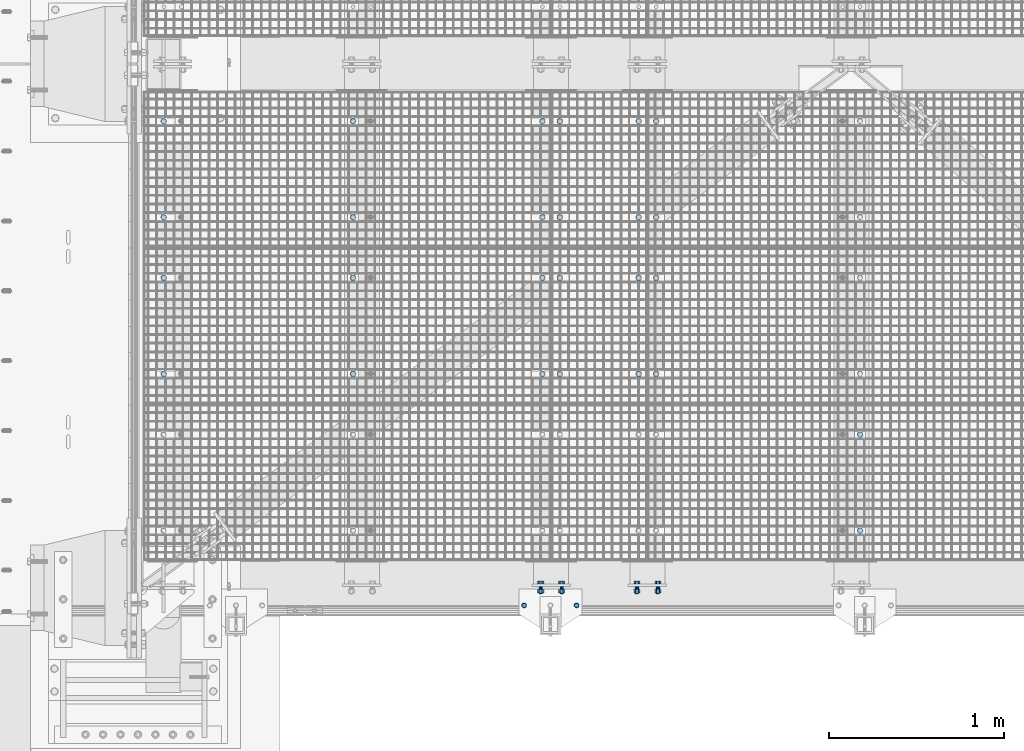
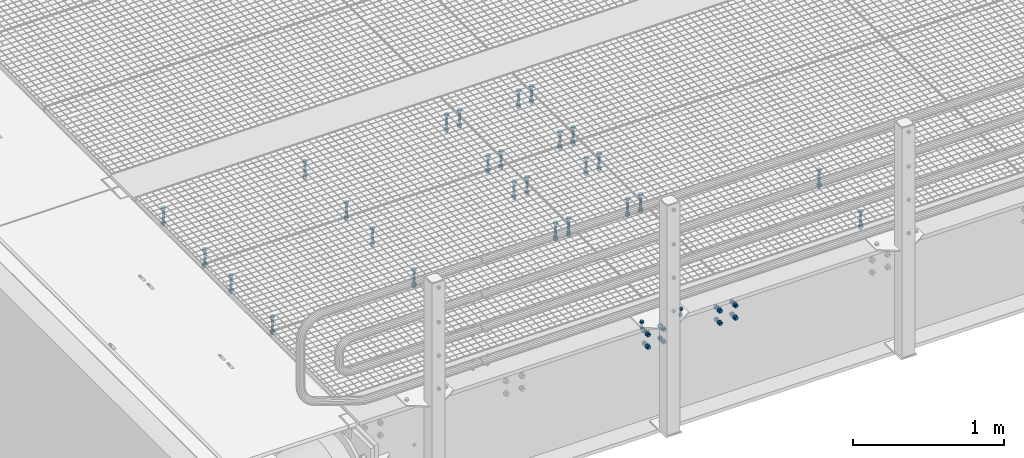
# One storey, part 8 of 1530: 16 mechanical fasteners.
"""IFC2X3 building model written with IfcOpenShell, lengths in millimetres."""

import ifcopenshell
import ifcopenshell.guid

model = None  # the IFC model being written
_history = None  # IfcOwnerHistory: only IFC2X3 demands one
_inside = {}  # id of a spatial element -> (the spatial element, [elements in it])
_under = {}  # id of a project, library or spatial element -> (it, [spatial elements below it])
_declared = {}  # id of a project -> (the project, [libraries it declares])
_typed = {}  # id of a type object -> (the type object, [elements of that type])
_made_of = {}  # id of a material, layer set ... -> (it, [elements and type objects made of it])


def new_model(schema):
    """Start an empty IFC model of exactly this schema.

    Asked for "IFC4X3", IfcOpenShell would pick the latest addendum, in which some entities
    have other attributes; the version numbers below select the first issue.
    IFC2X3 requires an IfcOwnerHistory on every rooted entity: one is made here for all.
    """
    global model, _history
    if schema == "IFC4X3":
        model = ifcopenshell.file(schema_version=(4, 3, 0, 0))
    else:
        model = ifcopenshell.file(schema=schema)
    _inside.clear()
    _under.clear()
    _declared.clear()
    _typed.clear()
    _made_of.clear()
    _history = None
    if model.schema == "IFC2X3":
        org = make("IfcOrganization", Name="unknown")
        user = make(
            "IfcPersonAndOrganization",
            ThePerson=make("IfcPerson", FamilyName="unknown"),
            TheOrganization=org,
        )
        app = make(
            "IfcApplication",
            ApplicationDeveloper=org,
            Version="unknown",
            ApplicationFullName="unknown",
            ApplicationIdentifier="unknown",
        )
        _history = make(
            "IfcOwnerHistory",
            OwningUser=user,
            OwningApplication=app,
            ChangeAction="ADDED",
            CreationDate=0,
        )
    return model


def make(cls, **values):
    """One entity of the class cls with the attributes given. An attribute that is None is left unset."""
    return model.create_entity(
        cls, **{name: value for name, value in values.items() if value is not None}
    )


def rooted(cls, **values):
    """An entity with a GlobalId (a new one), such as an element, a storey or a relation."""
    return make(cls, GlobalId=ifcopenshell.guid.new(), OwnerHistory=_history, **values)


def si_unit(unit_type, name, prefix=None):
    """IfcSIUnit, for example si_unit("LENGTHUNIT", "METRE", prefix="MILLI")."""
    return make("IfcSIUnit", UnitType=unit_type, Prefix=prefix, Name=name)


def assignment(units):
    """IfcUnitAssignment: the units of a project."""
    return None if units is None else make("IfcUnitAssignment", Units=units)


def point(xyz):
    """IfcCartesianPoint."""
    return None if xyz is None else make("IfcCartesianPoint", Coordinates=xyz)


def direction(xyz):
    """IfcDirection."""
    return None if xyz is None else make("IfcDirection", DirectionRatios=xyz)


def frame(location, z_axis=None, x_axis=None):
    """IfcAxis2Placement3D, a coordinate frame: its origin and axes. An axis left out is left unset."""
    return make(
        "IfcAxis2Placement3D",
        Location=point(location),
        Axis=direction(z_axis),
        RefDirection=direction(x_axis),
    )


def origin_with_axes():
    """The frame at (0, 0, 0) with the z axis (0, 0, 1) and the x axis (1, 0, 0) written out."""
    return frame((0.0, 0.0, 0.0), z_axis=(0.0, 0.0, 1.0), x_axis=(1.0, 0.0, 0.0))


def place(relative_to, where):
    """IfcLocalPlacement: puts the frame where relative to a parent placement (None: the world)."""
    return make(
        "IfcLocalPlacement", PlacementRelTo=relative_to, RelativePlacement=where
    )


def context(
    kind, dimensions, precision=None, world=None, true_north=None, identifier=None
):
    """IfcGeometricRepresentationContext, for example the 3D "Model" context."""
    return make(
        "IfcGeometricRepresentationContext",
        ContextIdentifier=identifier,
        ContextType=kind,
        CoordinateSpaceDimension=dimensions,
        Precision=precision,
        WorldCoordinateSystem=world,
        TrueNorth=true_north,
    )


def subcontext(parent, identifier, kind, view, scale=None):
    """IfcGeometricRepresentationSubContext, for example "Body" below "Model"."""
    return make(
        "IfcGeometricRepresentationSubContext",
        ContextIdentifier=identifier,
        ContextType=kind,
        ParentContext=parent,
        TargetScale=scale,
        TargetView=view,
    )


def project(units=None, contexts=None):
    """IfcProject with its units and contexts."""
    return rooted(
        "IfcProject",
        Name="project",
        RepresentationContexts=contexts,
        UnitsInContext=assignment(units),
    )


def spatial(cls, under=None, at=None, **own):
    """A site, building, storey or space (cls), placed at a placement, below another one or the project."""
    s = rooted(cls, ObjectPlacement=at, **own)
    if under is not None:
        _under.setdefault(under.id(), (under, []))[1].append(s)
    return s


def faces_of(points, faces, orient=None, outer=None):
    """IfcFace entities. A face is a list of loops; a loop is a list of indices into points, from 0.

    orient and outer hold one flag for each loop. By default every Orientation is true, the
    first loop of a face is its IfcFaceOuterBound and the others are IfcFaceBound.
    """
    made = []
    for i, loops in enumerate(faces):
        bounds = []
        for j, loop in enumerate(loops):
            is_outer = j == 0 if outer is None else outer[i][j]
            bounds.append(
                make(
                    "IfcFaceOuterBound" if is_outer else "IfcFaceBound",
                    Bound=make("IfcPolyLoop", Polygon=[points[k] for k in loop]),
                    Orientation=True if orient is None else orient[i][j],
                )
            )
        made.append(make("IfcFace", Bounds=bounds))
    return made


def faceted_brep(points, faces, orient=None, outer=None, voids=None):
    """IfcFacetedBrep: a solid bounded by flat faces; with voids (closed shells), ...WithVoids."""
    shared = [point(p) for p in points]
    hull = make("IfcClosedShell", CfsFaces=faces_of(shared, faces, orient, outer))
    if voids is None:
        return make("IfcFacetedBrep", Outer=hull)
    return make(
        "IfcFacetedBrepWithVoids",
        Outer=hull,
        Voids=[
            make(cls, CfsFaces=faces_of(shared, fs, o, b)) for cls, fs, o, b in voids
        ],
    )


def shape(context_of_items, identifier, shape_type, items):
    """IfcShapeRepresentation: the items that make up one representation, for example the "Body"."""
    return make(
        "IfcShapeRepresentation",
        ContextOfItems=context_of_items,
        RepresentationIdentifier=identifier,
        RepresentationType=shape_type,
        Items=items,
    )


def source(mapping_origin, context_of_items, identifier, shape_type, items):
    """IfcRepresentationMap: a shape defined once, which mapped items show again and again."""
    return make(
        "IfcRepresentationMap",
        MappingOrigin=mapping_origin,
        MappedRepresentation=shape(context_of_items, identifier, shape_type, items),
    )


def transform(
    local_origin,
    x_axis=None,
    y_axis=None,
    z_axis=None,
    scale=None,
    scale2=None,
    scale3=None,
    uniform=True,
):
    """IfcCartesianTransformationOperator3D, or its non-uniform kind. x_axis, y_axis, z_axis: its Axis1, 2, 3."""
    if uniform:
        return make(
            "IfcCartesianTransformationOperator3D",
            Axis1=direction(x_axis),
            Axis2=direction(y_axis),
            LocalOrigin=point(local_origin),
            Scale=scale,
            Axis3=direction(z_axis),
        )
    return make(
        "IfcCartesianTransformationOperator3DnonUniform",
        Axis1=direction(x_axis),
        Axis2=direction(y_axis),
        LocalOrigin=point(local_origin),
        Scale=scale,
        Axis3=direction(z_axis),
        Scale2=scale2,
        Scale3=scale3,
    )


def mapped(mapping_source, mapping_target):
    """IfcMappedItem: shows the shape of a source again, moved by a transform."""
    return make(
        "IfcMappedItem", MappingSource=mapping_source, MappingTarget=mapping_target
    )


def material(Name=None, Category=None):
    """IfcMaterial."""
    return make("IfcMaterial", Name=Name, Category=Category)


def made_of(thing, what):
    """Note that an element or type object is made of a material, layer set ...; save() writes the relation."""
    if what is not None:
        _made_of.setdefault(what.id(), (what, []))[1].append(thing)
    return thing


def type_object(cls, material=None, **own):
    """A type object (cls), such as IfcWallType, which elements share."""
    return made_of(rooted(cls, **own), material)


def element(
    cls,
    number,
    at=None,
    inside=None,
    cuts=None,
    type_object=None,
    material=None,
    context=None,
    identifier="Body",
    shape_type=None,
    held_by="IfcProductDefinitionShape",
    body=None,
    shapes=None,
    **own,
):
    """One element of the class cls, such as IfcWall. Its Tag is "e" and its number.

    at: its placement. inside: the storey or other place that contains it. cuts: it is an
    opening in that element (IfcRelVoidsElement). A single representation is given by context,
    identifier, shape_type and body (its items); several are given by shapes. held_by: the class
    of the entity that holds the representations. save() writes the other relations.
    """
    e = rooted(cls, Tag="e%d" % number, ObjectPlacement=at, **own)
    if body is not None:
        shapes = [shape(context, identifier, shape_type, body)]
    if shapes is not None:
        e.Representation = make(held_by, Representations=shapes)
    if inside is not None:
        _inside.setdefault(inside.id(), (inside, []))[1].append(e)
    if cuts is not None:
        rooted(
            "IfcRelVoidsElement", RelatingBuildingElement=cuts, RelatedOpeningElement=e
        )
    if type_object is not None:
        _typed.setdefault(type_object.id(), (type_object, []))[1].append(e)
    return made_of(e, material)


def aggregate(whole, parts):
    """IfcRelAggregates: a whole, such as a stair, and the parts it consists of."""
    return rooted("IfcRelAggregates", RelatingObject=whole, RelatedObjects=parts)


def save(model, path):
    """Write the relations noted so far, then the file.

    IfcRelAggregates (storeys below a building ...), IfcRelContainedInSpatialStructure (elements
    in a storey), IfcRelDefinesByType, IfcRelAssociatesMaterial and IfcRelDeclares: one each for
    every whole, place, type object, material and project.
    """
    for whole, parts in _under.values():
        aggregate(whole, parts)
    for where, things in _inside.values():
        rooted(
            "IfcRelContainedInSpatialStructure",
            RelatedElements=things,
            RelatingStructure=where,
        )
    for kind, things in _typed.values():
        rooted("IfcRelDefinesByType", RelatedObjects=things, RelatingType=kind)
    for what, things in _made_of.values():
        rooted("IfcRelAssociatesMaterial", RelatedObjects=things, RelatingMaterial=what)
    for by, libraries in _declared.values():
        rooted("IfcRelDeclares", RelatingContext=by, RelatedDefinitions=libraries)
    model.write(path)


model = new_model("IFC2X3")

# Units and contexts
model_context = context("Model", 3, precision=1e-05, world=origin_with_axes())
body_context = subcontext(model_context, "Body", "Model", "MODEL_VIEW")
ifc_project = project(units=[si_unit("LENGTHUNIT", "METRE", prefix="MILLI"), si_unit("AREAUNIT", "SQUARE_METRE"), si_unit("VOLUMEUNIT", "CUBIC_METRE"), si_unit("MASSUNIT", "GRAM", prefix="KILO"), si_unit("TIMEUNIT", "SECOND"), si_unit("PLANEANGLEUNIT", "RADIAN"), si_unit("SOLIDANGLEUNIT", "STERADIAN"), si_unit("THERMODYNAMICTEMPERATUREUNIT", "DEGREE_CELSIUS"), si_unit("LUMINOUSINTENSITYUNIT", "LUMEN")], contexts=[model_context])

# Site, building, storey
site_placement = place(None, origin_with_axes())
site = spatial("IfcSite", under=ifc_project, at=site_placement, Name="Brattvåg", CompositionType="ELEMENT")
building_placement = place(site_placement, origin_with_axes())
building = spatial("IfcBuilding", under=site, at=building_placement, Name="Undefined", CompositionType="ELEMENT")
storey_placement = place(building_placement, origin_with_axes())
storey = spatial("IfcBuildingStorey", under=building, at=storey_placement, Name="Undefined", CompositionType="ELEMENT", Elevation=0.0)

# Mechanical fasteners
ifc_material = material(Name="8")
mechanical_fastener_type = type_object("IfcMechanicalFastenerType", Name="Bolt assembly")
shared_shape_1 = source(origin_with_axes(), body_context, "Body", "Brep", [
    faceted_brep([(17.3205080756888, -10.5, 0.0), (8.66025403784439, -10.5, 15.0), (-8.66025403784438, -10.5, 15.0), (-17.3205080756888, -10.5, 2.12115047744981e-15), (-8.66025403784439, -10.5, -15.0), (8.66025403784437, -10.5, -15.0), (8.66025403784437, 2.0, -15.0), (-8.66025403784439, 2.0, -15.0), (-17.3205080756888, 2.0, 2.12115047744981e-15), (-8.66025403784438, 2.0, 15.0), (8.66025403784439, 2.0, 15.0), (17.3205080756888, 2.0, 0.0), (10.0, 2.0, 0.0), (8.66025403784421, 2.0, 5.0000000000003), (4.9999999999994, 2.0, 8.66025403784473), (-1.03633598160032e-12, 2.0, 10.0), (-5.00000000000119, 2.0, 8.6602540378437), (-8.66025403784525, 2.0, 4.99999999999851), (-10.0, 2.0, -2.07267196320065e-12), (-8.66025403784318, 2.0, -5.00000000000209), (-4.99999999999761, 2.0, -8.66025403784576), (3.09790571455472e-12, 2.0, -10.0), (5.00000000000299, 2.0, -8.66025403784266), (8.66025403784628, 2.0, -4.99999999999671), (8.66025403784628, 142.0, -4.99999999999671), (5.00000000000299, 142.0, -8.66025403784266), (3.09790571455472e-12, 142.0, -10.0), (-4.99999999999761, 142.0, -8.66025403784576), (-8.66025403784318, 142.0, -5.00000000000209), (-10.0, 142.0, -2.07267196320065e-12), (-8.66025403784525, 142.0, 4.99999999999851), (-5.00000000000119, 142.0, 8.6602540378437), (-1.03633598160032e-12, 142.0, 10.0), (4.9999999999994, 142.0, 8.66025403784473), (8.66025403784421, 142.0, 5.0000000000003), (10.0, 142.0, 0.0), (18.5, 2.0, 0.0), (16.0214699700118, 2.0, 9.25000000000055), (9.2499999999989, 2.0, 16.0214699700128), (-1.9172215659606e-12, 2.0, 18.5), (-9.25000000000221, 2.0, 16.0214699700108), (-16.0214699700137, 2.0, 9.24999999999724), (-18.5, 2.0, -3.83444313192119e-12), (-16.0214699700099, 2.0, -9.25000000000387), (-9.24999999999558, 2.0, -16.0214699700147), (5.73112557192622e-12, 2.0, -18.5), (9.25000000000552, 2.0, -16.0214699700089), (16.0214699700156, 2.0, -9.24999999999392), (16.0214699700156, 5.0, -9.24999999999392), (9.25000000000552, 5.0, -16.0214699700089), (5.73112557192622e-12, 5.0, -18.5), (-9.24999999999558, 5.0, -16.0214699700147), (-16.0214699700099, 5.0, -9.25000000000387), (-18.5, 5.0, -3.83444313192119e-12), (-16.0214699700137, 5.0, 9.24999999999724), (-9.25000000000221, 5.0, 16.0214699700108), (-1.9172215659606e-12, 5.0, 18.5), (9.2499999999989, 5.0, 16.0214699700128), (16.0214699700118, 5.0, 9.25000000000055), (18.5, 5.0, 0.0), (18.5, 109.998931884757, 0.0), (16.0214699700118, 109.998931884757, 9.25000000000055), (9.2499999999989, 109.998931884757, 16.0214699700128), (-1.9172215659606e-12, 109.998931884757, 18.5), (-9.25000000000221, 109.998931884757, 16.0214699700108), (-16.0214699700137, 109.998931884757, 9.24999999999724), (-18.5, 109.998931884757, -3.83444313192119e-12), (-16.0214699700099, 109.998931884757, -9.25000000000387), (-9.24999999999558, 109.998931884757, -16.0214699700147), (5.73112557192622e-12, 109.998931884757, -18.5), (9.25000000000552, 109.998931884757, -16.0214699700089), (16.0214699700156, 109.998931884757, -9.24999999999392), (16.0214699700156, 112.998931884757, -9.24999999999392), (9.25000000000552, 112.998931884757, -16.0214699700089), (5.73112557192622e-12, 112.998931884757, -18.5), (-9.24999999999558, 112.998931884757, -16.0214699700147), (-16.0214699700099, 112.998931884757, -9.25000000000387), (-18.5, 112.998931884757, -3.83444313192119e-12), (-16.0214699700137, 112.998931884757, 9.24999999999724), (-9.25000000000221, 112.998931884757, 16.0214699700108), (-1.9172215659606e-12, 112.998931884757, 18.5), (9.2499999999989, 112.998931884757, 16.0214699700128), (16.0214699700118, 112.998931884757, 9.25000000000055), (18.5, 112.998931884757, 0.0), (17.3205080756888, 112.998931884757, 0.0), (8.66025403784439, 112.998931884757, 15.0), (-8.66025403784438, 112.998931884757, 15.0), (-17.3205080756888, 112.998931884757, 2.12115047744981e-15), (-8.66025403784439, 112.998931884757, -15.0), (8.66025403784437, 112.998931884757, -15.0), (8.66025403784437, 130.998931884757, -15.0), (-8.66025403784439, 130.998931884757, -15.0), (-17.3205080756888, 130.998931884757, 2.12115047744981e-15), (-8.66025403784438, 130.998931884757, 15.0), (8.66025403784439, 130.998931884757, 15.0), (17.3205080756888, 130.998931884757, 0.0)], [[[0, 1, 2, 3, 4, 5]], [[6, 7, 8, 9, 10, 11]], [[0, 11, 10, 1]], [[1, 10, 9, 2]], [[2, 9, 8, 3]], [[3, 8, 7, 4]], [[4, 7, 6, 5]], [[5, 6, 11, 0]], [[12, 13, 14, 15, 16, 17, 18, 19, 20, 21, 22, 23]], [[24, 25, 26, 27, 28, 29, 30, 31, 32, 33, 34, 35]], [[12, 35, 34, 13]], [[13, 34, 33, 14]], [[14, 33, 32, 15]], [[15, 32, 31, 16]], [[16, 31, 30, 17]], [[17, 30, 29, 18]], [[18, 29, 28, 19]], [[19, 28, 27, 20]], [[20, 27, 26, 21]], [[21, 26, 25, 22]], [[22, 25, 24, 23]], [[23, 24, 35, 12]], [[36, 37, 38, 39, 40, 41, 42, 43, 44, 45, 46, 47]], [[48, 49, 50, 51, 52, 53, 54, 55, 56, 57, 58, 59]], [[36, 59, 58, 37]], [[37, 58, 57, 38]], [[38, 57, 56, 39]], [[39, 56, 55, 40]], [[40, 55, 54, 41]], [[41, 54, 53, 42]], [[42, 53, 52, 43]], [[43, 52, 51, 44]], [[44, 51, 50, 45]], [[45, 50, 49, 46]], [[46, 49, 48, 47]], [[47, 48, 59, 36]], [[60, 61, 62, 63, 64, 65, 66, 67, 68, 69, 70, 71]], [[72, 73, 74, 75, 76, 77, 78, 79, 80, 81, 82, 83]], [[60, 83, 82, 61]], [[61, 82, 81, 62]], [[62, 81, 80, 63]], [[63, 80, 79, 64]], [[64, 79, 78, 65]], [[65, 78, 77, 66]], [[66, 77, 76, 67]], [[67, 76, 75, 68]], [[68, 75, 74, 69]], [[69, 74, 73, 70]], [[70, 73, 72, 71]], [[71, 72, 83, 60]], [[84, 85, 86, 87, 88, 89]], [[90, 91, 92, 93, 94, 95]], [[84, 95, 94, 85]], [[85, 94, 93, 86]], [[86, 93, 92, 87]], [[87, 92, 91, 88]], [[88, 91, 90, 89]], [[89, 90, 95, 84]]]),
])
for number, where, z_axis, x_axis, name in (
    (1, (2956.00477935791, 2121.91931152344, -25.0), (-1.0, 1.99999855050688e-09, 0.0), (0.0, 1.0, 0.0), "Bolt assembly"),
    (2, (2956.00477935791, 1224.91931152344, -25.0), (-1.0, 1.99999855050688e-09, 0.0), (0.0, 1.0, 0.0), "Bolt assembly"),
    (3, (4124.01192543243, 327.99, -25.0), (-1.0, 1.99999855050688e-09, 0.0), (0.0, 1.0, 0.0), "Bolt assembly"),
    (4, (2856.01522064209, 2121.91931152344, -25.0), (-1.0, 1.99999855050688e-09, 0.0), (0.0, 1.0, 0.0), "Bolt assembly"),
    (5, (2405.00477935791, 2121.91931152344, -25.0), (-1.0, 1.99999855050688e-09, 0.0), (0.0, 1.0, 0.0), "Bolt assembly"),
    (6, (2856.01522064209, 1224.91931152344, -25.0), (-1.0, 1.99999855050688e-09, 0.0), (0.0, 1.0, 0.0), "Bolt assembly"),
    (7, (2405.00477935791, 1224.91931152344, -25.0), (-1.0, 1.99999855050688e-09, 0.0), (0.0, 1.0, 0.0), "Bolt assembly"),
    (8, (137.004779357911, 2121.91931152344, -25.0), (-1.0, 1.99999855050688e-09, 0.0), (0.0, 1.0, 0.0), "Bolt assembly"),
    (9, (1221.01192543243, 2121.99, -25.0), (-1.0, 1.99999855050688e-09, 0.0), (0.0, 1.0, 0.0), "Bolt assembly"),
    (10, (2305.01487731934, 2121.9204864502, -25.0), (-1.0, 1.99999855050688e-09, 0.0), (0.0, 1.0, 0.0), "Bolt assembly"),
    (11, (137.004779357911, 1224.91931152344, -25.0), (-1.0, 1.99999855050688e-09, 0.0), (0.0, 1.0, 0.0), "Bolt assembly"),
    (12, (1221.01192543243, 1224.99, -25.0), (-1.0, 1.99999855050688e-09, 0.0), (0.0, 1.0, 0.0), "Bolt assembly"),
    (13, (2305.01487731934, 1224.9204864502, -25.0), (-1.0, 1.99999855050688e-09, 0.0), (0.0, 1.0, 0.0), "Bolt assembly"),
):
    element("IfcMechanicalFastener", number, at=place(storey_placement, frame(where, z_axis=z_axis, x_axis=x_axis)), inside=storey, type_object=mechanical_fastener_type, material=ifc_material, Name=name, NominalDiameter=20.0, NominalLength=140.0, context=body_context, shape_type="MappedRepresentation", body=[
        mapped(shared_shape_1, transform((0.0, 0.0, 0.0))),
        mapped(shared_shape_1, transform((549.999999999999, 0.0, 0.0))),
    ])
shared_shape_2 = source(origin_with_axes(), body_context, "Body", "Brep", [
    faceted_brep([(13.856406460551, -13.0, 0.0), (6.92820323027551, -13.0, 12.0), (-6.92820323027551, -13.0, 12.0), (-13.856406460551, -13.0, 1.69692038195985e-15), (-6.92820323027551, -13.0, -12.0), (6.9282032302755, -13.0, -12.0), (6.9282032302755, -3.0, -12.0), (-6.92820323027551, -3.0, -12.0), (-13.856406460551, -3.0, 1.69692038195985e-15), (-6.92820323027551, -3.0, 12.0), (6.92820323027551, -3.0, 12.0), (13.856406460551, -3.0, 0.0), (8.0, -3.0, 0.0), (6.92820323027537, -3.0, 4.00000000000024), (3.99999999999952, -3.0, 6.92820323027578), (-8.29068785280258e-13, -3.0, 8.0), (-4.00000000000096, -3.0, 6.92820323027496), (-6.9282032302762, -3.0, 3.99999999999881), (-8.0, -3.0, -1.65813757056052e-12), (-6.92820323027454, -3.0, -4.00000000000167), (-3.99999999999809, -3.0, -6.92820323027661), (2.47832457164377e-12, -3.0, -8.0), (4.00000000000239, -3.0, -6.92820323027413), (6.92820323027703, -3.0, -3.99999999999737), (6.92820323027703, 62.0000000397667, -3.99999999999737), (4.00000000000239, 62.0000000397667, -6.92820323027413), (2.47832457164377e-12, 62.0000000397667, -8.0), (-3.99999999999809, 62.0000000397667, -6.92820323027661), (-6.92820323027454, 62.0000000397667, -4.00000000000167), (-8.0, 62.0000000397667, -1.65813757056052e-12), (-6.9282032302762, 62.0000000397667, 3.99999999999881), (-4.00000000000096, 62.0000000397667, 6.92820323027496), (-8.29068785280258e-13, 62.0000000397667, 8.0), (3.99999999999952, 62.0000000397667, 6.92820323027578), (6.92820323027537, 62.0000000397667, 4.00000000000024), (8.0, 62.0000000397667, 0.0), (15.0, -3.0, 0.0), (12.9903810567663, -3.0, 7.50000000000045), (7.4999999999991, -3.0, 12.9903810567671), (-1.55450397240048e-12, -3.0, 15.0), (-7.50000000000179, -3.0, 12.9903810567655), (-12.9903810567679, -3.0, 7.49999999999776), (-15.0, -3.0, -3.10900794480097e-12), (-12.9903810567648, -3.0, -7.50000000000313), (-7.49999999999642, -3.0, -12.9903810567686), (4.64685857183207e-12, -3.0, -15.0), (7.50000000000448, -3.0, -12.990381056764), (12.9903810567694, -3.0, -7.49999999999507), (12.9903810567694, 0.0, -7.49999999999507), (7.50000000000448, 0.0, -12.990381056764), (0.0, 0.0, -15.0), (-7.49999999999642, 0.0, -12.9903810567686), (-12.9903810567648, 0.0, -7.50000000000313), (-15.0, 0.0, -3.10900794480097e-12), (-12.9903810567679, 0.0, 7.49999999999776), (-7.50000000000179, 0.0, 12.9903810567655), (0.0, 0.0, 15.0), (7.4999999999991, 0.0, 12.9903810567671), (12.9903810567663, 0.0, 7.50000000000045), (15.0, 0.0, 0.0), (15.0, 39.9997390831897, 0.0), (12.9903810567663, 39.9997390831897, 7.50000000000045), (7.4999999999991, 39.9997390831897, 12.9903810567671), (-1.55450397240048e-12, 39.9997390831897, 15.0), (-7.50000000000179, 39.9997390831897, 12.9903810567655), (-12.9903810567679, 39.9997390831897, 7.49999999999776), (-15.0, 39.9997390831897, -3.10900794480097e-12), (-12.9903810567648, 39.9997390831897, -7.50000000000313), (-7.49999999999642, 39.9997390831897, -12.9903810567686), (4.64685857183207e-12, 39.9997390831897, -15.0), (7.50000000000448, 39.9997390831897, -12.990381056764), (12.9903810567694, 39.9997390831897, -7.49999999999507), (12.9903810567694, 42.9997390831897, -7.49999999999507), (7.50000000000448, 42.9997390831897, -12.990381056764), (4.64685857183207e-12, 42.9997390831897, -15.0), (-7.49999999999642, 42.9997390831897, -12.9903810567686), (-12.9903810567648, 42.9997390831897, -7.50000000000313), (-15.0, 42.9997390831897, -3.10900794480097e-12), (-12.9903810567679, 42.9997390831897, 7.49999999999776), (-7.50000000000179, 42.9997390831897, 12.9903810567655), (-1.55450397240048e-12, 42.9997390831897, 15.0), (7.4999999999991, 42.9997390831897, 12.9903810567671), (12.9903810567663, 42.9997390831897, 7.50000000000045), (15.0, 42.9997390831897, 0.0), (13.856406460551, 42.9997390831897, 0.0), (6.92820323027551, 42.9997390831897, 12.0), (-6.92820323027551, 42.9997390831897, 12.0), (-13.856406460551, 42.9997390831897, 1.69692038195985e-15), (-6.92820323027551, 42.9997390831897, -12.0), (6.9282032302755, 42.9997390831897, -12.0), (6.9282032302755, 57.7997392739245, -12.0), (-6.92820323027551, 57.7997392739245, -12.0), (-13.856406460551, 57.7997392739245, 1.69692038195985e-15), (-6.92820323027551, 57.7997392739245, 12.0), (6.92820323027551, 57.7997392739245, 12.0), (13.856406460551, 57.7997392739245, 0.0)], [[[0, 1, 2, 3, 4, 5]], [[6, 7, 8, 9, 10, 11]], [[0, 11, 10, 1]], [[1, 10, 9, 2]], [[2, 9, 8, 3]], [[3, 8, 7, 4]], [[4, 7, 6, 5]], [[5, 6, 11, 0]], [[12, 13, 14, 15, 16, 17, 18, 19, 20, 21, 22, 23]], [[24, 25, 26, 27, 28, 29, 30, 31, 32, 33, 34, 35]], [[12, 35, 34, 13]], [[13, 34, 33, 14]], [[14, 33, 32, 15]], [[15, 32, 31, 16]], [[16, 31, 30, 17]], [[17, 30, 29, 18]], [[18, 29, 28, 19]], [[19, 28, 27, 20]], [[20, 27, 26, 21]], [[21, 26, 25, 22]], [[22, 25, 24, 23]], [[23, 24, 35, 12]], [[36, 37, 38, 39, 40, 41, 42, 43, 44, 45, 46, 47]], [[48, 49, 50, 51, 52, 53, 54, 55, 56, 57, 58, 59]], [[36, 59, 58, 37]], [[37, 58, 57, 38]], [[38, 57, 56, 39]], [[39, 56, 55, 40]], [[40, 55, 54, 41]], [[41, 54, 53, 42]], [[42, 53, 52, 43]], [[43, 52, 51, 44]], [[44, 51, 50, 45]], [[45, 50, 49, 46]], [[46, 49, 48, 47]], [[47, 48, 59, 36]], [[60, 61, 62, 63, 64, 65, 66, 67, 68, 69, 70, 71]], [[72, 73, 74, 75, 76, 77, 78, 79, 80, 81, 82, 83]], [[60, 83, 82, 61]], [[61, 82, 81, 62]], [[62, 81, 80, 63]], [[63, 80, 79, 64]], [[64, 79, 78, 65]], [[65, 78, 77, 66]], [[66, 77, 76, 67]], [[67, 76, 75, 68]], [[68, 75, 74, 69]], [[69, 74, 73, 70]], [[70, 73, 72, 71]], [[71, 72, 83, 60]], [[84, 85, 86, 87, 88, 89]], [[90, 91, 92, 93, 94, 95]], [[84, 95, 94, 85]], [[85, 94, 93, 86]], [[86, 93, 92, 87]], [[87, 92, 91, 88]], [[88, 91, 90, 89]], [[89, 90, 95, 84]]]),
    faceted_brep([(9.0, 0.1, 0.0), (7.79422863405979, 0.1, 4.50000000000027), (4.49999999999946, 0.1, 7.79422863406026), (-9.3270238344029e-13, 0.1, 9.0), (-4.50000000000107, 0.1, 7.79422863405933), (-7.79422863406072, 0.1, 4.49999999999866), (-9.0, 0.1, -1.86540476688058e-12), (-7.79422863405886, 0.1, -4.50000000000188), (-4.49999999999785, 0.1, -7.79422863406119), (2.78811514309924e-12, 0.1, -9.0), (4.50000000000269, 0.1, -7.7942286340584), (7.79422863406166, 0.1, -4.49999999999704), (7.79422863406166, 10.1, -4.49999999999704), (4.50000000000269, 10.1, -7.7942286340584), (2.78811514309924e-12, 10.1, -9.0), (-4.49999999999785, 10.1, -7.79422863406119), (-7.79422863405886, 10.1, -4.50000000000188), (-9.0, 10.1, -1.86540476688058e-12), (-7.79422863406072, 10.1, 4.49999999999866), (-4.50000000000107, 10.1, 7.79422863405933), (-9.3270238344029e-13, 10.1, 9.0), (4.49999999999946, 10.1, 7.79422863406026), (7.79422863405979, 10.1, 4.50000000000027), (9.0, 10.1, 0.0), (9.0, 9.8997390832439, 0.0), (7.79422863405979, 9.8997390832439, 4.50000000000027), (4.49999999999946, 9.8997390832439, 7.79422863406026), (-9.3270238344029e-13, 9.8997390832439, 9.0), (-4.50000000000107, 9.8997390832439, 7.79422863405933), (-7.79422863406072, 9.8997390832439, 4.49999999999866), (-9.0, 9.8997390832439, -1.86540476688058e-12), (-7.79422863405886, 9.8997390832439, -4.50000000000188), (-4.49999999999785, 9.8997390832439, -7.79422863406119), (2.78811514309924e-12, 9.8997390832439, -9.0), (4.50000000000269, 9.8997390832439, -7.7942286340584), (7.79422863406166, 9.8997390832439, -4.49999999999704), (7.79422863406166, 39.9997390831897, -4.49999999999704), (4.50000000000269, 39.9997390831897, -7.7942286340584), (2.78811514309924e-12, 39.9997390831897, -9.0), (-4.49999999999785, 39.9997390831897, -7.79422863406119), (-7.79422863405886, 39.9997390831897, -4.50000000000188), (-9.0, 39.9997390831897, -1.86540476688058e-12), (-7.79422863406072, 39.9997390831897, 4.49999999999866), (-4.50000000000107, 39.9997390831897, 7.79422863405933), (-9.3270238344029e-13, 39.9997390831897, 9.0), (4.49999999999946, 39.9997390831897, 7.79422863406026), (7.79422863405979, 39.9997390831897, 4.50000000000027), (9.0, 39.9997390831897, 0.0)], [[[0, 1, 2, 3, 4, 5, 6, 7, 8, 9, 10, 11]], [[12, 13, 14, 15, 16, 17, 18, 19, 20, 21, 22, 23]], [[0, 23, 22, 1]], [[1, 22, 21, 2]], [[2, 21, 20, 3]], [[3, 20, 19, 4]], [[4, 19, 18, 5]], [[5, 18, 17, 6]], [[6, 17, 16, 7]], [[7, 16, 15, 8]], [[8, 15, 14, 9]], [[9, 14, 13, 10]], [[10, 13, 12, 11]], [[11, 12, 23, 0]], [[24, 25, 26, 27, 28, 29, 30, 31, 32, 33, 34, 35]], [[36, 37, 38, 39, 40, 41, 42, 43, 44, 45, 46, 47]], [[24, 47, 46, 25]], [[25, 46, 45, 26]], [[26, 45, 44, 27]], [[27, 44, 43, 28]], [[28, 43, 42, 29]], [[29, 42, 41, 30]], [[30, 41, 40, 31]], [[31, 40, 39, 32]], [[32, 39, 38, 33]], [[33, 38, 37, 34]], [[34, 37, 36, 35]], [[35, 36, 47, 24]]]),
])
mechanical_fastener_placement = place(storey_placement, frame((2200.00080864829, -99.9996071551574, 9.99973908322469), z_axis=(0.0, 1.0, 0.0), x_axis=(1.0, 0.0, 0.0)))
element("IfcMechanicalFastener", 14, at=mechanical_fastener_placement, inside=storey, type_object=mechanical_fastener_type, material=ifc_material, Name="Bolt assembly", NominalDiameter=16.0, NominalLength=65.0, context=body_context, shape_type="MappedRepresentation", body=[
    mapped(shared_shape_2, transform((0.0, 0.0, 0.0))),
    mapped(shared_shape_2, transform((300.0, 0.0, 0.0))),
])
shared_shape_3 = source(origin_with_axes(), body_context, "Body", "Brep", [
    faceted_brep([(17.3205080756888, -15.5000000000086, 0.0), (8.66025403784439, -15.5000000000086, 15.0), (-8.66025403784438, -15.5000000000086, 15.0), (-17.3205080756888, -15.5000000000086, 2.12115047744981e-15), (-8.66025403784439, -15.5000000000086, -15.0), (8.66025403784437, -15.5000000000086, -15.0), (8.66025403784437, -3.00000000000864, -15.0), (-8.66025403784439, -3.00000000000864, -15.0), (-17.3205080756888, -3.00000000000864, 2.12115047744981e-15), (-8.66025403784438, -3.00000000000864, 15.0), (8.66025403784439, -3.00000000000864, 15.0), (17.3205080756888, -3.00000000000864, 0.0), (10.0, -3.00000000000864, 0.0), (8.66025403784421, -3.00000000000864, 5.0000000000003), (4.9999999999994, -3.00000000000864, 8.66025403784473), (-1.03633598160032e-12, -3.00000000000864, 10.0), (-5.00000000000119, -3.00000000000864, 8.6602540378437), (-8.66025403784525, -3.00000000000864, 4.99999999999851), (-10.0, -3.00000000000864, -2.07267196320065e-12), (-8.66025403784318, -3.00000000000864, -5.00000000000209), (-4.99999999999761, -3.00000000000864, -8.66025403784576), (3.09790571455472e-12, -3.00000000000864, -10.0), (5.00000000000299, -3.00000000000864, -8.66025403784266), (8.66025403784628, -3.00000000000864, -4.99999999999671), (8.66025403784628, 57.0, -4.99999999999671), (5.00000000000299, 57.0, -8.66025403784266), (3.09790571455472e-12, 57.0, -10.0), (-4.99999999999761, 57.0, -8.66025403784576), (-8.66025403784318, 57.0, -5.00000000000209), (-10.0, 57.0, -2.07267196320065e-12), (-8.66025403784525, 57.0, 4.99999999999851), (-5.00000000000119, 57.0, 8.6602540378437), (-1.03633598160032e-12, 57.0, 10.0), (4.9999999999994, 57.0, 8.66025403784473), (8.66025403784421, 57.0, 5.0000000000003), (10.0, 57.0, 0.0), (18.5, -3.00000000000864, 0.0), (16.0214699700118, -3.00000000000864, 9.25000000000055), (9.2499999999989, -3.00000000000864, 16.0214699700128), (-1.9172215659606e-12, -3.00000000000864, 18.5), (-9.25000000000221, -3.00000000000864, 16.0214699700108), (-16.0214699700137, -3.00000000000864, 9.24999999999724), (-18.5, -3.00000000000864, -3.83444313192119e-12), (-16.0214699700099, -3.00000000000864, -9.25000000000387), (-9.24999999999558, -3.00000000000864, -16.0214699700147), (5.73112557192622e-12, -3.00000000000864, -18.5), (9.25000000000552, -3.00000000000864, -16.0214699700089), (16.0214699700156, -3.00000000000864, -9.24999999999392), (16.0214699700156, -8.64019966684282e-12, -9.24999999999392), (9.25000000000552, -8.64019966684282e-12, -16.0214699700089), (5.73112557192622e-12, -8.64019966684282e-12, -18.5), (-9.24999999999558, -8.64019966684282e-12, -16.0214699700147), (-16.0214699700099, -8.64019966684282e-12, -9.25000000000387), (-18.5, -8.64019966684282e-12, -3.83444313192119e-12), (-16.0214699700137, -8.64019966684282e-12, 9.24999999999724), (-9.25000000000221, -8.64019966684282e-12, 16.0214699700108), (-1.9172215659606e-12, -8.64019966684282e-12, 18.5), (9.2499999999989, -8.64019966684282e-12, 16.0214699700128), (16.0214699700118, -8.64019966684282e-12, 9.25000000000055), (18.5, -8.64019966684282e-12, 0.0), (18.5, 31.0015563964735, 0.0), (16.0214699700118, 31.0015563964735, 9.25000000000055), (9.2499999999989, 31.0015563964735, 16.0214699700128), (-1.9172215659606e-12, 31.0015563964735, 18.5), (-9.25000000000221, 31.0015563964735, 16.0214699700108), (-16.0214699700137, 31.0015563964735, 9.24999999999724), (-18.5, 31.0015563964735, -3.83444313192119e-12), (-16.0214699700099, 31.0015563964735, -9.25000000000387), (-9.24999999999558, 31.0015563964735, -16.0214699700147), (5.73112557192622e-12, 31.0015563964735, -18.5), (9.25000000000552, 31.0015563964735, -16.0214699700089), (16.0214699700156, 31.0015563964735, -9.24999999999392), (16.0214699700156, 34.0015563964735, -9.24999999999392), (9.25000000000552, 34.0015563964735, -16.0214699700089), (5.73112557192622e-12, 34.0015563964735, -18.5), (-9.24999999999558, 34.0015563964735, -16.0214699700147), (-16.0214699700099, 34.0015563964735, -9.25000000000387), (-18.5, 34.0015563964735, -3.83444313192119e-12), (-16.0214699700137, 34.0015563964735, 9.24999999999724), (-9.25000000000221, 34.0015563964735, 16.0214699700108), (-1.9172215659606e-12, 34.0015563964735, 18.5), (9.2499999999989, 34.0015563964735, 16.0214699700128), (16.0214699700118, 34.0015563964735, 9.25000000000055), (18.5, 34.0015563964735, 0.0), (17.3205080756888, 34.0015563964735, 0.0), (8.66025403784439, 34.0015563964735, 15.0), (-8.66025403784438, 34.0015563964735, 15.0), (-17.3205080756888, 34.0015563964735, 2.12115047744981e-15), (-8.66025403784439, 34.0015563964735, -15.0), (8.66025403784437, 34.0015563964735, -15.0), (8.66025403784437, 52.0015563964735, -15.0), (-8.66025403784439, 52.0015563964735, -15.0), (-17.3205080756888, 52.0015563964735, 2.12115047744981e-15), (-8.66025403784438, 52.0015563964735, 15.0), (8.66025403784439, 52.0015563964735, 15.0), (17.3205080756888, 52.0015563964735, 0.0)], [[[0, 1, 2, 3, 4, 5]], [[6, 7, 8, 9, 10, 11]], [[0, 11, 10, 1]], [[1, 10, 9, 2]], [[2, 9, 8, 3]], [[3, 8, 7, 4]], [[4, 7, 6, 5]], [[5, 6, 11, 0]], [[12, 13, 14, 15, 16, 17, 18, 19, 20, 21, 22, 23]], [[24, 25, 26, 27, 28, 29, 30, 31, 32, 33, 34, 35]], [[12, 35, 34, 13]], [[13, 34, 33, 14]], [[14, 33, 32, 15]], [[15, 32, 31, 16]], [[16, 31, 30, 17]], [[17, 30, 29, 18]], [[18, 29, 28, 19]], [[19, 28, 27, 20]], [[20, 27, 26, 21]], [[21, 26, 25, 22]], [[22, 25, 24, 23]], [[23, 24, 35, 12]], [[36, 37, 38, 39, 40, 41, 42, 43, 44, 45, 46, 47]], [[48, 49, 50, 51, 52, 53, 54, 55, 56, 57, 58, 59]], [[36, 59, 58, 37]], [[37, 58, 57, 38]], [[38, 57, 56, 39]], [[39, 56, 55, 40]], [[40, 55, 54, 41]], [[41, 54, 53, 42]], [[42, 53, 52, 43]], [[43, 52, 51, 44]], [[44, 51, 50, 45]], [[45, 50, 49, 46]], [[46, 49, 48, 47]], [[47, 48, 59, 36]], [[60, 61, 62, 63, 64, 65, 66, 67, 68, 69, 70, 71]], [[72, 73, 74, 75, 76, 77, 78, 79, 80, 81, 82, 83]], [[60, 83, 82, 61]], [[61, 82, 81, 62]], [[62, 81, 80, 63]], [[63, 80, 79, 64]], [[64, 79, 78, 65]], [[65, 78, 77, 66]], [[66, 77, 76, 67]], [[67, 76, 75, 68]], [[68, 75, 74, 69]], [[69, 74, 73, 70]], [[70, 73, 72, 71]], [[71, 72, 83, 60]], [[84, 85, 86, 87, 88, 89]], [[90, 91, 92, 93, 94, 95]], [[84, 95, 94, 85]], [[85, 94, 93, 86]], [[86, 93, 92, 87]], [[87, 92, 91, 88]], [[88, 91, 90, 89]], [[89, 90, 95, 84]]]),
    faceted_brep([(11.0, 0.1, 0.0), (9.52627944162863, 0.1, 5.50000000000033), (5.49999999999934, 0.1, 9.5262794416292), (-1.13996957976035e-12, 0.1, 11.0), (-5.50000000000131, 0.1, 9.52627944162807), (-9.52627944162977, 0.1, 5.49999999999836), (-11.0, 0.1, -2.27993915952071e-12), (-9.5262794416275, 0.1, -5.5000000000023), (-5.49999999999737, 0.1, -9.52627944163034), (3.40769628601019e-12, 0.1, -11.0), (5.50000000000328, 0.1, -9.52627944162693), (9.52627944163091, 0.1, -5.49999999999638), (9.52627944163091, 15.1, -5.49999999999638), (5.50000000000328, 15.1, -9.52627944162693), (3.40769628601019e-12, 15.1, -11.0), (-5.49999999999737, 15.1, -9.52627944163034), (-9.5262794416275, 15.1, -5.5000000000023), (-11.0, 15.1, -2.27993915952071e-12), (-9.52627944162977, 15.1, 5.49999999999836), (-5.50000000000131, 15.1, 9.52627944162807), (-1.13996957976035e-12, 15.1, 11.0), (5.49999999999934, 15.1, 9.5262794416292), (9.52627944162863, 15.1, 5.50000000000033), (11.0, 15.1, 0.0), (11.0, 14.9015563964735, 0.0), (9.52627944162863, 14.9015563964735, 5.50000000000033), (5.49999999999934, 14.9015563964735, 9.5262794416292), (-1.13996957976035e-12, 14.9015563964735, 11.0), (-5.50000000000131, 14.9015563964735, 9.52627944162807), (-9.52627944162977, 14.9015563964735, 5.49999999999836), (-11.0, 14.9015563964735, -2.27993915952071e-12), (-9.5262794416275, 14.9015563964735, -5.5000000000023), (-5.49999999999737, 14.9015563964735, -9.52627944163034), (3.40769628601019e-12, 14.9015563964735, -11.0), (5.50000000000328, 14.9015563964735, -9.52627944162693), (9.52627944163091, 14.9015563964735, -5.49999999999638), (9.52627944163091, 31.0015563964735, -5.49999999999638), (5.50000000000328, 31.0015563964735, -9.52627944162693), (3.40769628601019e-12, 31.0015563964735, -11.0), (-5.49999999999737, 31.0015563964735, -9.52627944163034), (-9.5262794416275, 31.0015563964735, -5.5000000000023), (-11.0, 31.0015563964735, -2.27993915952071e-12), (-9.52627944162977, 31.0015563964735, 5.49999999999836), (-5.50000000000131, 31.0015563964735, 9.52627944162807), (-1.13996957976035e-12, 31.0015563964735, 11.0), (5.49999999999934, 31.0015563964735, 9.5262794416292), (9.52627944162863, 31.0015563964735, 5.50000000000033), (11.0, 31.0015563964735, 0.0)], [[[0, 1, 2, 3, 4, 5, 6, 7, 8, 9, 10, 11]], [[12, 13, 14, 15, 16, 17, 18, 19, 20, 21, 22, 23]], [[0, 23, 22, 1]], [[1, 22, 21, 2]], [[2, 21, 20, 3]], [[3, 20, 19, 4]], [[4, 19, 18, 5]], [[5, 18, 17, 6]], [[6, 17, 16, 7]], [[7, 16, 15, 8]], [[8, 15, 14, 9]], [[9, 14, 13, 10]], [[10, 13, 12, 11]], [[11, 12, 23, 0]], [[24, 25, 26, 27, 28, 29, 30, 31, 32, 33, 34, 35]], [[36, 37, 38, 39, 40, 41, 42, 43, 44, 45, 46, 47]], [[24, 47, 46, 25]], [[25, 46, 45, 26]], [[26, 45, 44, 27]], [[27, 44, 43, 28]], [[28, 43, 42, 29]], [[29, 42, 41, 30]], [[30, 41, 40, 31]], [[31, 40, 39, 32]], [[32, 39, 38, 33]], [[33, 38, 37, 34]], [[34, 37, 36, 35]], [[35, 36, 47, 24]]]),
])
for number, where, z_axis, x_axis, name in (
    (15, (2415.00196838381, 23.0015563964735, -219.998836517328), (0.0, 0.0, 1.0), (-1.0, 1.99999855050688e-09, 0.0), "Bolt assembly"),
    (16, (2966.00196838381, 23.0015563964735, -219.998836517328), (0.0, 0.0, 1.0), (-1.0, 1.99999855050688e-09, 0.0), "Bolt assembly"),
):
    element("IfcMechanicalFastener", number, at=place(storey_placement, frame(where, z_axis=z_axis, x_axis=x_axis)), inside=storey, type_object=mechanical_fastener_type, material=ifc_material, Name=name, NominalDiameter=20.0, NominalLength=60.0, context=body_context, shape_type="MappedRepresentation", body=[
        mapped(shared_shape_3, transform((0.0, 0.0, -50.0))),
        mapped(shared_shape_3, transform((120.0, 0.0, -50.0))),
        mapped(shared_shape_3, transform((0.0, 0.0, 50.0))),
        mapped(shared_shape_3, transform((120.0, 0.0, 50.0))),
    ])

save(model, "model.ifc")
